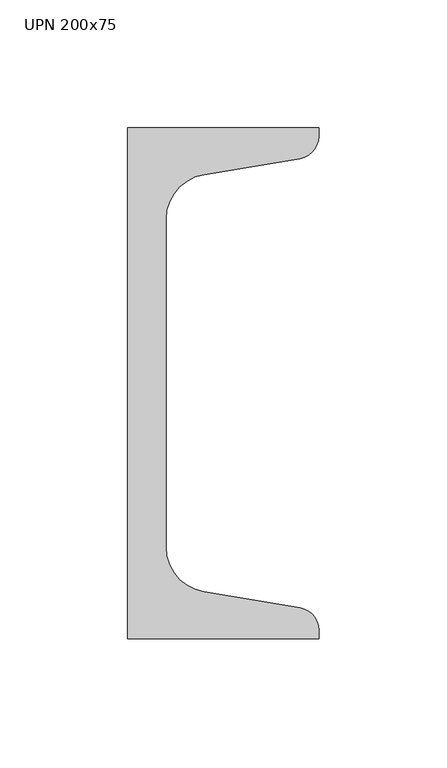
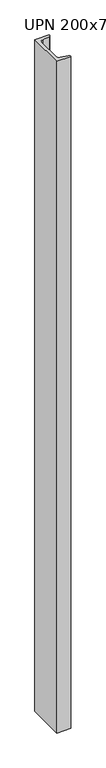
"""IFC4 building model written with IfcOpenShell, lengths in millimetres: column geometry, M_MC Shapes-Column : UPN 200x75."""

from ifc_helpers import new_model, si_unit, point, frame, frame_2d, origin, place, context, project, spatial, polyline, circle_curve, trimmed, segment, composite_curve, outline, extrude, source, transform, mapped, element, save


def upn_200x75_f21e3de1(model_context):
    return source(origin(), model_context, "Body", "SweptSolid", [
        extrude(outline(composite_curve([segment(polyline([(-26.4, -100.0), (-26.4, 100.0), (48.6, 100.0), (48.6, 96.7227759)]), True, "CONTINUOUS"), segment(trimmed(circle_curve(frame_2d((39.7, 96.7227759)), 8.9), [point((48.6, 96.7227759))], [point((41.1631538, 87.9438705))], False, "CARTESIAN"), True, "CONTINUOUS"), segment(polyline([(41.1631538, 87.9438705), (3.4736923, 81.662281)]), True, "CONTINUOUS"), segment(trimmed(circle_curve(frame_2d((6.4, 64.1044701)), 17.8), [point((3.4736923, 81.662281))], [point((-11.4, 64.1044701))], True, "CARTESIAN"), True, "CONTINUOUS"), segment(polyline([(-11.4, 64.1044701), (-11.4, -64.1044701)]), True, "CONTINUOUS"), segment(trimmed(circle_curve(frame_2d((6.4, -64.1044701)), 17.8), [point((-11.4, -64.1044701))], [point((3.4736923, -81.662281))], True, "CARTESIAN"), True, "CONTINUOUS"), segment(polyline([(3.4736923, -81.662281), (41.1631538, -87.9438705)]), True, "CONTINUOUS"), segment(trimmed(circle_curve(frame_2d((39.7, -96.7227759)), 8.9), [point((41.1631538, -87.9438705))], [point((48.6, -96.7227759))], False, "CARTESIAN"), True, "CONTINUOUS"), segment(polyline([(48.6, -96.7227759), (48.6, -100.0), (-26.4, -100.0)]), True, "CONTINUOUS")], self_intersect=False)), frame((0.0, 0.0, 29910.0), z_axis=(0.0, 0.0, 1.0), x_axis=(1.0, 0.0, 0.0)), (0.0, 0.0, 1.0), 3750.0),
    ])


if __name__ == "__main__":
    model = new_model("IFC4")
    model_context = context("Model", 3, world=origin())
    ifc_project = project(units=[si_unit("LENGTHUNIT", "METRE", prefix="MILLI")], contexts=[model_context])
    site = spatial("IfcSite", under=ifc_project)
    building = spatial("IfcBuilding", under=site)
    placement = place(None, origin())
    upn_200x75_shape = upn_200x75_f21e3de1(model_context)
    element("IfcColumn", 1, ObjectType="M_MC Shapes-Column : UPN 200x75", at=placement, inside=building, context=model_context, shape_type="MappedRepresentation", body=[
        mapped(upn_200x75_shape, transform((0.0, 0.0, 0.0), x_axis=(1.0, 0.0, 0.0), y_axis=(0.0, 1.0, 0.0), z_axis=(0.0, 0.0, 1.0))),
    ])
    save(model, "model.ifc")
